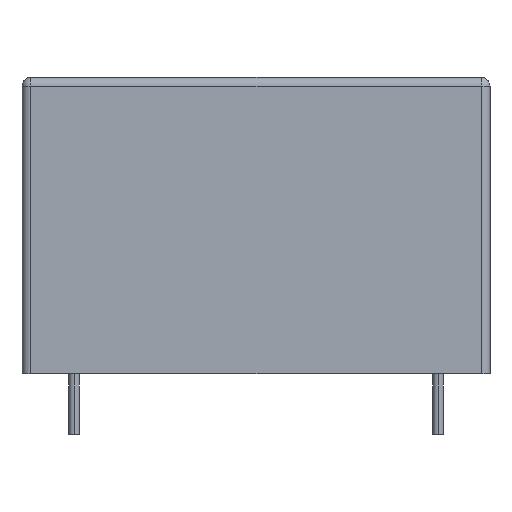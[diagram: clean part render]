
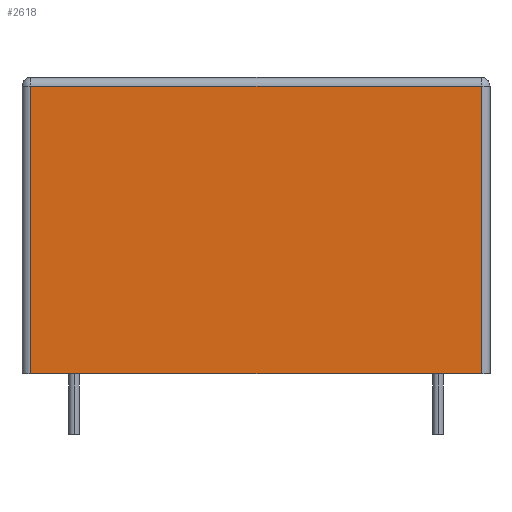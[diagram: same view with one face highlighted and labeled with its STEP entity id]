
A CAD part, left-side view. The second image highlights one B-rep face of the part: STEP entity #2618.
In plain terms, the highlighted planar face has unit normal (-1, 0, 0).
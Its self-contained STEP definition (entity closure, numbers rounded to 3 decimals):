
#54=DIRECTION('',(0.,-1.,0.));
#55=VECTOR('',#54,26.);
#56=CARTESIAN_POINT('',(-18.25,13.,0.));
#57=LINE('',#56,#55);
#283=DIRECTION('',(0.,0.,1.));
#284=VECTOR('',#283,16.6);
#285=CARTESIAN_POINT('',(-18.25,-13.,0.));
#286=LINE('',#285,#284);
#297=DIRECTION('',(0.,-1.,0.));
#298=VECTOR('',#297,26.);
#299=CARTESIAN_POINT('',(-18.25,13.,16.6));
#300=LINE('',#299,#298);
#301=DIRECTION('',(0.,0.,1.));
#302=VECTOR('',#301,16.6);
#303=CARTESIAN_POINT('',(-18.25,13.,0.));
#304=LINE('',#303,#302);
#1766=CARTESIAN_POINT('',(-18.25,13.,0.));
#1768=VERTEX_POINT('',#1766);
#1769=CARTESIAN_POINT('',(-18.25,-13.,0.));
#1770=VERTEX_POINT('',#1769);
#1781=CARTESIAN_POINT('',(-18.25,-13.,16.6));
#1783=VERTEX_POINT('',#1781);
#1803=CARTESIAN_POINT('',(-18.25,13.,16.6));
#1804=VERTEX_POINT('',#1803);
#2607=CARTESIAN_POINT('',(-18.25,13.,0.));
#2608=DIRECTION('',(-1.,0.,0.));
#2609=DIRECTION('',(0.,-1.,0.));
#2610=AXIS2_PLACEMENT_3D('',#2607,#2608,#2609);
#2611=PLANE('',#2610);
#2612=ORIENTED_EDGE('',*,*,#2601,.T.);
#2613=ORIENTED_EDGE('',*,*,#2577,.F.);
#2614=ORIENTED_EDGE('',*,*,#2320,.F.);
#2615=ORIENTED_EDGE('',*,*,#2380,.T.);
#2616=EDGE_LOOP('',(#2612,#2613,#2614,#2615));
#2617=FACE_OUTER_BOUND('',#2616,.F.);
#2320=EDGE_CURVE('',#1768,#1770,#57,.T.);
#2380=EDGE_CURVE('',#1768,#1804,#304,.T.);
#2577=EDGE_CURVE('',#1770,#1783,#286,.T.);
#2601=EDGE_CURVE('',#1804,#1783,#300,.T.);
#2618=ADVANCED_FACE('',(#2617),#2611,.T.);
